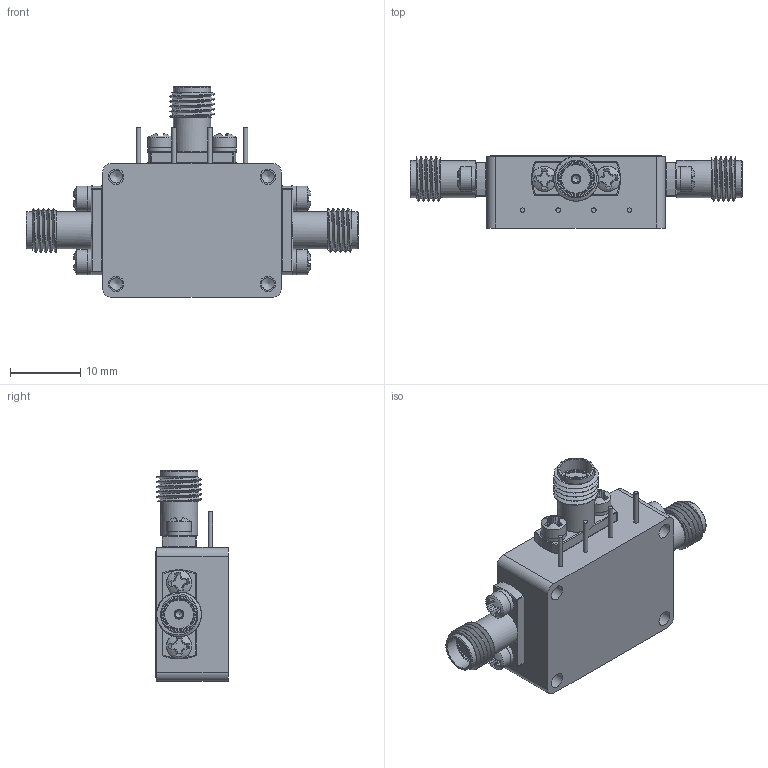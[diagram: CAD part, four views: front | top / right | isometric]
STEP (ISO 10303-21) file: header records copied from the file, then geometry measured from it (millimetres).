
FILE_DESCRIPTION (( 'STEP AP214' ), '1' );
FILE_NAME ('P2T-100M50G-100-T.STEP', '2025-01-14T17:49:16', ( '' ), ( '' ), 'SwSTEP 2.0', 'SolidWorks 2024', '' );
FILE_SCHEMA (( 'AUTOMOTIVE_DESIGN' ));
Length unit declared in the file: inch
Products named in the file (1): P2T-100M50G-100-T
Bounding box: 47.24 x 10.29 x 29.97 mm (x, y, z)
Volume: 5876.7 mm3; surface area: 4921.1 mm2
Topology: 30 solids, 30 shells, 626 faces, 2367 edges, 1948 vertices
Faces by surface type: plane 365, cylinder 116, torus 69, cone 40, sphere 30, bspline 6
Full cylindrical faces by diameter (mm): 0.305 x3, 0.381 x3, 0.635 x7, 1.016 x3, 1.27 x3, 1.778 x4, 2.184 x10, 2.591 x6, 3.302 x3, 3.556 x6, 4.191 x6, 4.597 x3, 5.283 x6
Entity records: 39827 total; most frequent: CARTESIAN_POINT 12339, ORIENTED_EDGE 4370, DIRECTION 3340, EDGE_CURVE 2185, VERTEX_POINT 1926, AXIS2_PLACEMENT_3D 1121, LINE 1098, VECTOR 1098
